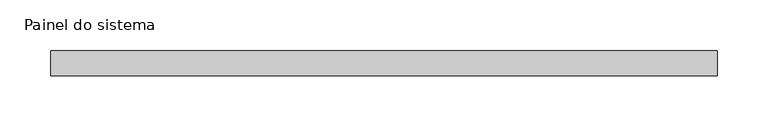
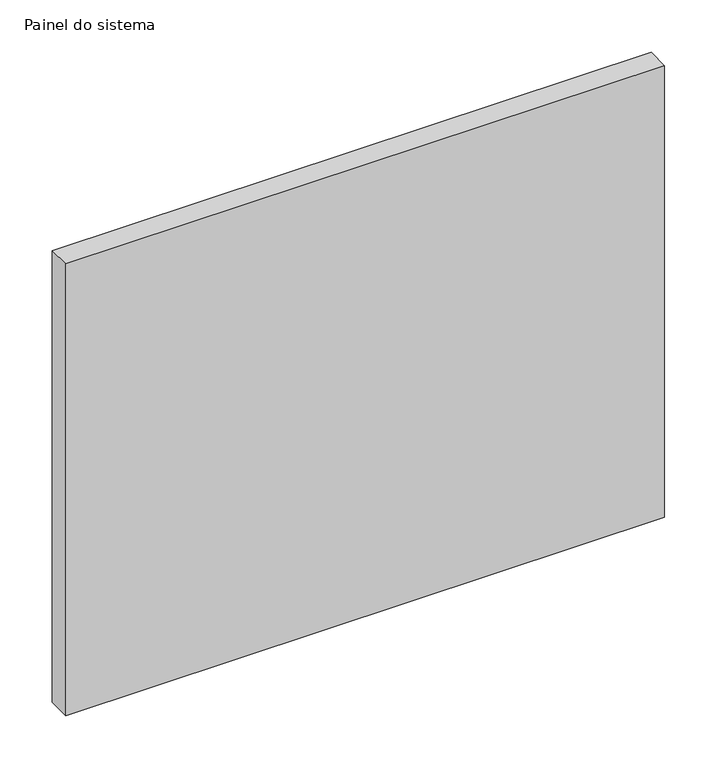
"""IFC4 building model written with IfcOpenShell, lengths in millimetres: plate geometry, Painel do sistema : Envidraçado."""

from ifc_helpers import new_model, si_unit, origin, origin_with_axes, place, context, project, spatial, polyline, outline, extrude, source, transform, mapped, element, save


def painel_do_sistema_35b86571(model_context):
    return source(origin(), model_context, "Body", "SweptSolid", [
        extrude(outline(polyline([(329.5002289, 24.5), (-329.5002289, 24.5), (-329.5002289, 49.5), (329.5002289, 49.5), (329.5002289, 24.5)])), origin_with_axes(), (0.0, 0.0, 1.0), 525.0),
    ])


if __name__ == "__main__":
    model = new_model("IFC4")
    model_context = context("Model", 3, world=origin())
    ifc_project = project(units=[si_unit("LENGTHUNIT", "METRE", prefix="MILLI")], contexts=[model_context])
    site = spatial("IfcSite", under=ifc_project)
    building = spatial("IfcBuilding", under=site)
    placement = place(None, origin())
    painel_do_sistema_shape = painel_do_sistema_35b86571(model_context)
    element("IfcPlate", 1, ObjectType="Painel do sistema : Envidraçado", at=placement, inside=building, context=model_context, shape_type="MappedRepresentation", body=[
        mapped(painel_do_sistema_shape, transform((0.0, 0.0, 0.0), x_axis=(1.0, 0.0, 0.0), y_axis=(0.0, 1.0, 0.0), z_axis=(0.0, 0.0, 1.0))),
    ])
    save(model, "model.ifc")
